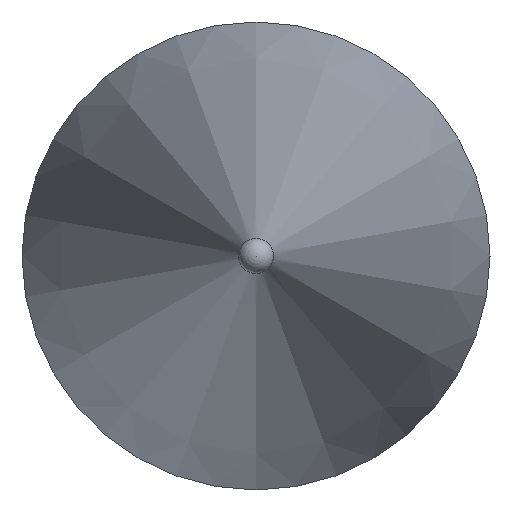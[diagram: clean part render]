
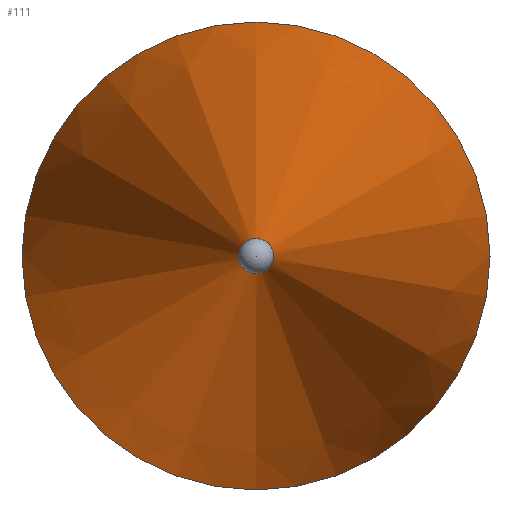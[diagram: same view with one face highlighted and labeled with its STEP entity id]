
A CAD part, left-side view. The second image highlights one B-rep face of the part: STEP entity #111.
In plain terms, the highlighted conical face has half-angle 12 degrees and reference radius 2 mm.
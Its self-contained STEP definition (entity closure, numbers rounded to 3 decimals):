
#95=CONICAL_SURFACE('',#160,2.,12.);
#101=FACE_BOUND('',#121,.T.);
#102=FACE_BOUND('',#122,.T.);
#111=ADVANCED_FACE('',(#101,#102),#95,.T.);
#121=EDGE_LOOP('',(#131));
#122=EDGE_LOOP('',(#132));
#131=ORIENTED_EDGE('',*,*,#144,.F.);
#132=ORIENTED_EDGE('',*,*,#145,.T.);
#139=VERTEX_POINT('',#196);
#140=VERTEX_POINT('',#199);
#144=EDGE_CURVE('',#139,#139,#149,.T.);
#145=EDGE_CURVE('',#140,#140,#150,.T.);
#149=CIRCLE('',#157,0.15);
#150=CIRCLE('',#159,2.);
#157=AXIS2_PLACEMENT_3D('',#195,#174,#175);
#159=AXIS2_PLACEMENT_3D('',#198,#178,#179);
#160=AXIS2_PLACEMENT_3D('',#200,#180,#181);
#174=DIRECTION('',(-1.,0.,0.));
#175=DIRECTION('',(0.,0.,1.));
#178=DIRECTION('',(-1.,0.,0.));
#179=DIRECTION('',(0.,0.,1.));
#180=DIRECTION('',(1.,0.,0.));
#181=DIRECTION('',(0.,0.,-1.));
#195=CARTESIAN_POINT('',(7888.162,6105.041,0.));
#196=CARTESIAN_POINT('',(7888.162,6105.041,0.15));
#198=CARTESIAN_POINT('',(7896.866,6105.041,0.));
#199=CARTESIAN_POINT('',(7896.866,6105.041,2.));
#200=CARTESIAN_POINT('',(7896.866,6105.041,0.));
